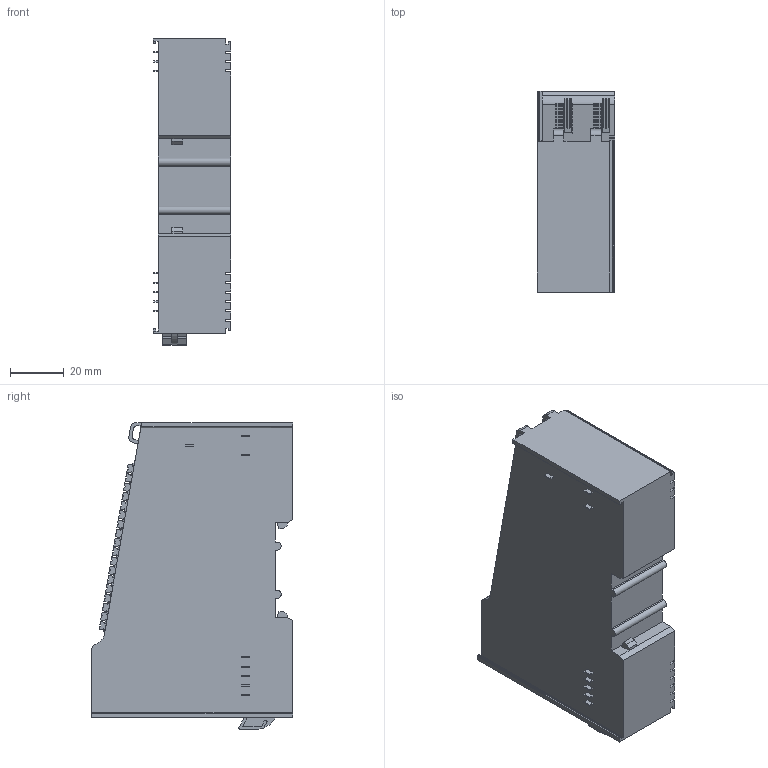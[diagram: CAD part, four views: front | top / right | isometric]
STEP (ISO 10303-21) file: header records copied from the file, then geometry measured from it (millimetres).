
FILE_DESCRIPTION (( 'STEP AP203' ), '1' );
FILE_NAME ('CT222D.STEP', '2024-10-09T01:08:35', ( '' ), ( '' ), 'SwSTEP 2.0', 'SolidWorks 2021', '' );
FILE_SCHEMA (( 'CONFIG_CONTROL_DESIGN' ));
Length unit declared in the file: millimetre
Products named in the file (1): CT222D
Bounding box: 29 x 75 x 114.33 mm (x, y, z)
Volume: 189167.8 mm3; surface area: 34436.7 mm2
Topology: 1 solids, 1 shells, 1710 faces, 4701 edges, 3084 vertices
Faces by surface type: plane 1617, bspline 67, cylinder 26
Entity records: 56066 total; most frequent: CARTESIAN_POINT 12979, ORIENTED_EDGE 9402, DIRECTION 7893, EDGE_CURVE 4701, VECTOR 4513, LINE 4513, VERTEX_POINT 3084, EDGE_LOOP 1805
